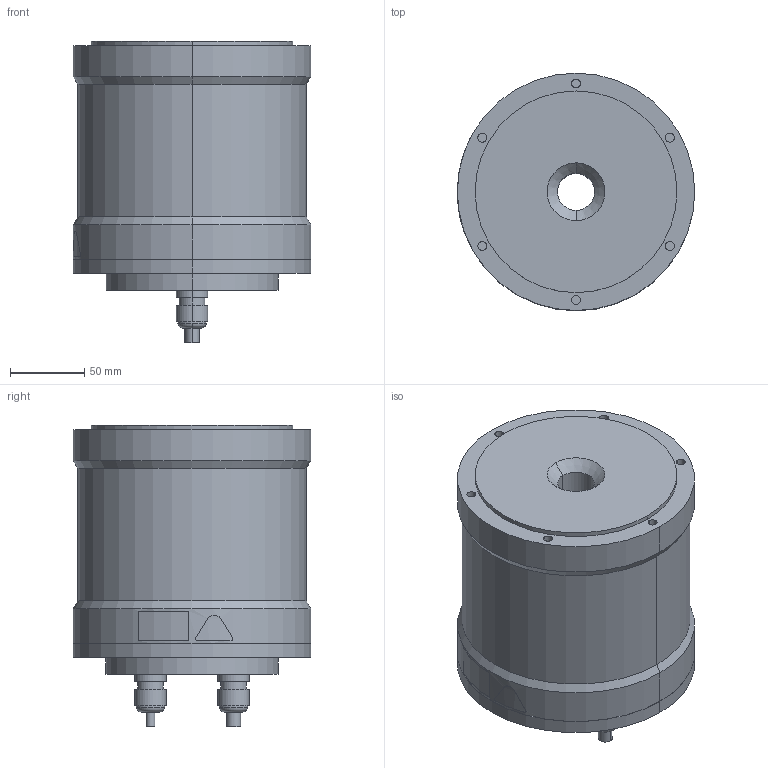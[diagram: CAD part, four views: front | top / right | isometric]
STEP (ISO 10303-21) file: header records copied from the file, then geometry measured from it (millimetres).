
FILE_DESCRIPTION (( 'STEP AP203' ), '1' );
FILE_NAME ('sgm7d_34g_c5_.STEP', '2016-02-22T09:19:37', ( '' ), ( '' ), 'SwSTEP 2.0', 'SolidWorks 2010', '' );
FILE_SCHEMA (( 'CONFIG_CONTROL_DESIGN' ));
Length unit declared in the file: millimetre
Products named in the file (1): sgm7d_34g_c5_
Bounding box: 160.06 x 160 x 203.4 mm (x, y, z)
Volume: 3037777.9 mm3; surface area: 143249.8 mm2
Topology: 1 solids, 1 shells, 211 faces, 469 edges, 308 vertices
Faces by surface type: cylinder 122, plane 74, cone 6, bspline 5, torus 4
Entity records: 6268 total; most frequent: CARTESIAN_POINT 1284, DIRECTION 1123, ORIENTED_EDGE 938, EDGE_CURVE 469, AXIS2_PLACEMENT_3D 463, VERTEX_POINT 308, EDGE_LOOP 261, CIRCLE 256
